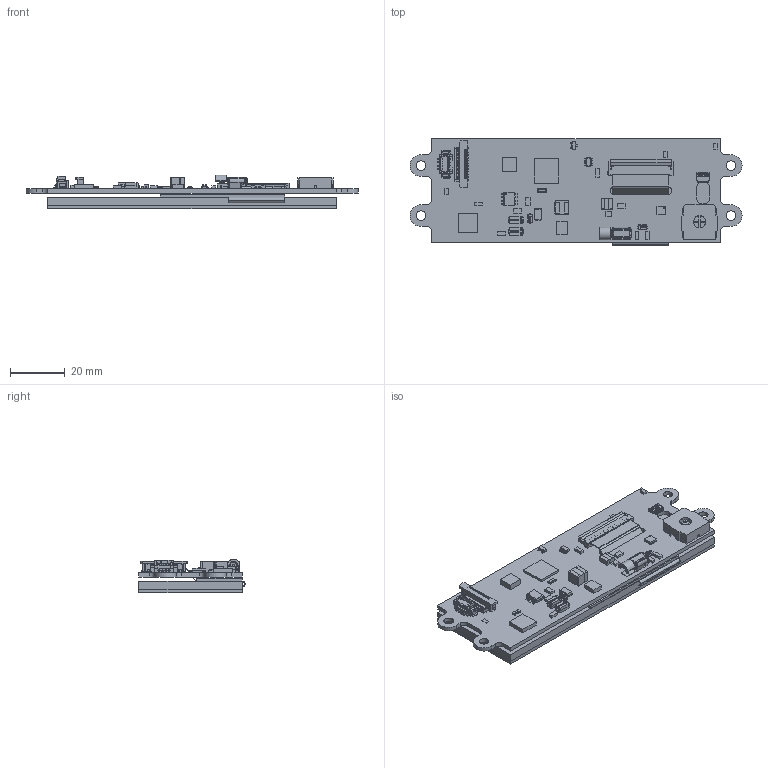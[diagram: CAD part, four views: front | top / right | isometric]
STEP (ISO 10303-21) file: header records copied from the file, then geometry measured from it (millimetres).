
FILE_DESCRIPTION (( 'STEP AP214' ), '1' );
FILE_NAME ('EVE3x-38A-TPR RevA.STEP', '2026-04-29T18:31:07', ( '' ), ( '' ), 'SwSTEP 2.0', 'SolidWorks 2021', '' );
FILE_SCHEMA (( 'AUTOMOTIVE_DESIGN' ));
Length unit declared in the file: millimetre
Products named in the file (6): EVE3x-38A-TPR RevA; EVE3x-38A PCB R1.0.x; EVE3x-38A R1.0.x; TPR; EVE3x-38G PCB R1.0.0; MOPTFT480116-38A
Assembly tree (5 placements, depth 3):
  EVE3x-38A-TPR RevA
    EVE3x-38A R1.0.x
      EVE3x-38G PCB R1.0.0
      EVE3x-38A PCB R1.0.x
    MOPTFT480116-38A
    TPR
Bounding box: 121.5 x 38.85 x 12.36 mm (x, y, z)
Volume: 23912.6 mm3; surface area: 31333.8 mm2
Topology: 5 solids, 268 shells, 2316 faces, 12011 edges, 9805 vertices
Faces by surface type: plane 1854, bspline 268, cylinder 188, sphere 5, torus 1
Entity records: 147137 total; most frequent: CARTESIAN_POINT 37529, ORIENTED_EDGE 16256, DIRECTION 16139, EDGE_CURVE 12005, VERTEX_POINT 9805, LINE 9515, VECTOR 9515, AXIS2_PLACEMENT_3D 3312
